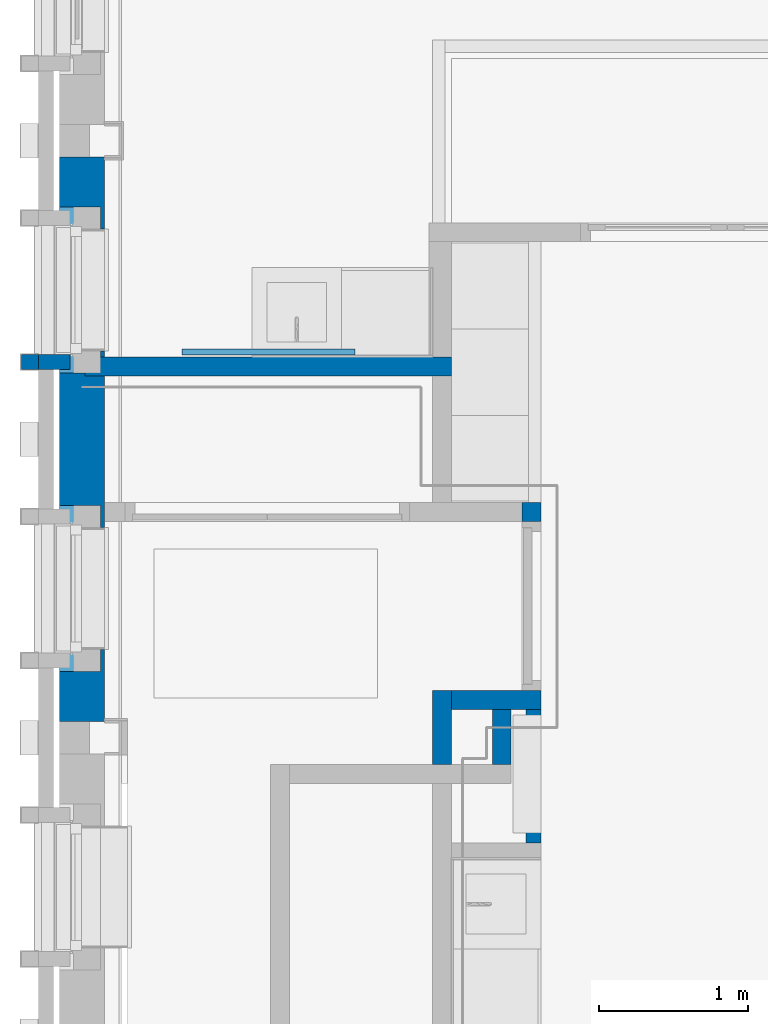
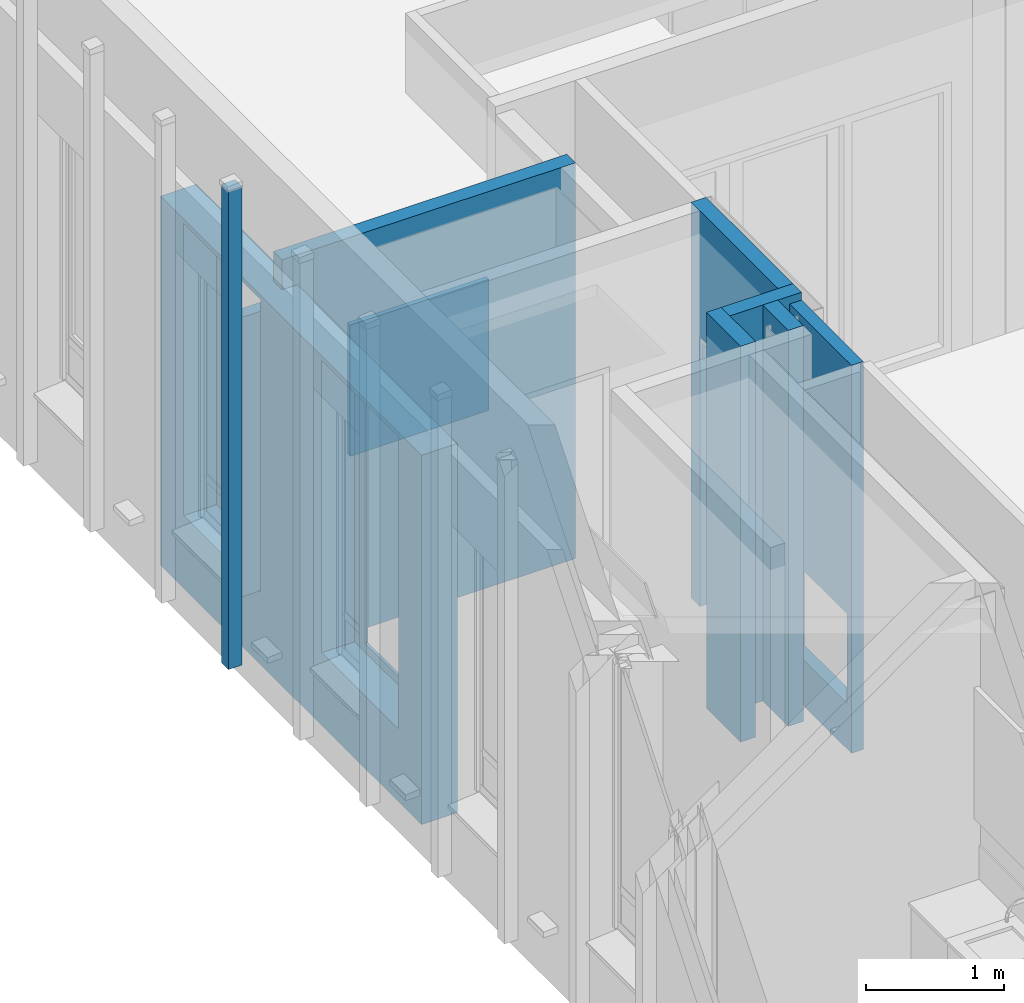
# One storey, part 50 of 118: 10 walls, 14 openings.
"""IFC2X3 building model written with IfcOpenShell, lengths in millimetres."""

from ifc_helpers import new_model, entity, si_unit, converted_unit, derived_unit, direction, frame, frame_2d, origin, place, context, subcontext, project, spatial, rectangle, extrude, faceted_brep, material, layer, layer_set, layer_usage, type_object, element, save


model = new_model("IFC2X3")

# Units and contexts
model_context = context("Model", 3, precision=0.01, world=origin(), true_north=direction((6.123031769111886e-17, 1.0)))
plan_context = context("Plan", 3, precision=0.01, world=origin(), true_north=direction((6.123031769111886e-17, 1.0)))
body_context = subcontext(model_context, "Body", "Model", "MODEL_VIEW")
ifc_project = project(units=[si_unit("LENGTHUNIT", "METRE", prefix="MILLI"), si_unit("AREAUNIT", "SQUARE_METRE"), si_unit("VOLUMEUNIT", "CUBIC_METRE"), converted_unit("PLANEANGLEUNIT", "DEGREE", entity("IfcRatioMeasure", 0.017453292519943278), si_unit("PLANEANGLEUNIT", "RADIAN"), dimensions=[0, 0, 0, 0, 0, 0, 0]), si_unit("MASSUNIT", "GRAM", prefix="KILO"), derived_unit("MASSDENSITYUNIT", [(si_unit("MASSUNIT", "GRAM", prefix="KILO"), 1), (si_unit("LENGTHUNIT", "METRE"), -3)]), derived_unit("IONCONCENTRATIONUNIT", [(si_unit("MASSUNIT", "GRAM", prefix="KILO"), 1), (si_unit("LENGTHUNIT", "METRE"), -3)]), derived_unit("MOMENTOFINERTIAUNIT", [(si_unit("LENGTHUNIT", "METRE"), 4)]), si_unit("TIMEUNIT", "SECOND"), si_unit("FREQUENCYUNIT", "HERTZ"), si_unit("THERMODYNAMICTEMPERATUREUNIT", "DEGREE_CELSIUS"), derived_unit("THERMALTRANSMITTANCEUNIT", [(si_unit("MASSUNIT", "GRAM", prefix="KILO"), 1), (si_unit("THERMODYNAMICTEMPERATUREUNIT", "KELVIN"), -1), (si_unit("TIMEUNIT", "SECOND"), -3)]), derived_unit("THERMALCONDUCTANCEUNIT", [(si_unit("MASSUNIT", "GRAM", prefix="KILO"), 1), (si_unit("THERMODYNAMICTEMPERATUREUNIT", "KELVIN"), -1), (si_unit("TIMEUNIT", "SECOND"), -3), (si_unit("LENGTHUNIT", "METRE"), 1)]), derived_unit("VOLUMETRICFLOWRATEUNIT", [(si_unit("LENGTHUNIT", "METRE"), 3), (si_unit("TIMEUNIT", "SECOND"), -1)]), derived_unit("MASSFLOWRATEUNIT", [(si_unit("MASSUNIT", "GRAM", prefix="KILO"), 1), (si_unit("TIMEUNIT", "SECOND"), -1)]), derived_unit("ROTATIONALFREQUENCYUNIT", [(si_unit("TIMEUNIT", "SECOND"), -1)]), si_unit("ELECTRICCURRENTUNIT", "AMPERE"), si_unit("ELECTRICVOLTAGEUNIT", "VOLT"), si_unit("POWERUNIT", "WATT"), si_unit("FORCEUNIT", "NEWTON", prefix="KILO"), si_unit("ILLUMINANCEUNIT", "LUX"), si_unit("LUMINOUSFLUXUNIT", "LUMEN"), si_unit("LUMINOUSINTENSITYUNIT", "CANDELA"), derived_unit("USERDEFINED", [(si_unit("MASSUNIT", "GRAM", prefix="KILO"), -1), (si_unit("LENGTHUNIT", "METRE"), -2), (si_unit("TIMEUNIT", "SECOND"), 3), (si_unit("LUMINOUSFLUXUNIT", "LUMEN"), 1)]), derived_unit("USERDEFINED", [(si_unit("MASSUNIT", "GRAM", prefix="KILO"), 1), (si_unit("TIMEUNIT", "SECOND"), -3), (si_unit("LENGTHUNIT", "METRE"), 3), (si_unit("ELECTRICCURRENTUNIT", "AMPERE"), -2)]), derived_unit("SOUNDPOWERUNIT", [(si_unit("MASSUNIT", "GRAM", prefix="KILO"), 1), (si_unit("TIMEUNIT", "SECOND"), -3), (si_unit("LENGTHUNIT", "METRE"), 2)]), derived_unit("SOUNDPRESSUREUNIT", [(si_unit("MASSUNIT", "GRAM", prefix="KILO"), 1), (si_unit("LENGTHUNIT", "METRE"), -1), (si_unit("TIMEUNIT", "SECOND"), -2)]), derived_unit("LINEARVELOCITYUNIT", [(si_unit("LENGTHUNIT", "METRE"), 1), (si_unit("TIMEUNIT", "SECOND"), -1)]), si_unit("PRESSUREUNIT", "PASCAL"), derived_unit("USERDEFINED", [(si_unit("MASSUNIT", "GRAM", prefix="KILO"), 1), (si_unit("LENGTHUNIT", "METRE"), -2), (si_unit("TIMEUNIT", "SECOND"), -2)]), derived_unit("LINEARFORCEUNIT", [(si_unit("MASSUNIT", "GRAM", prefix="KILO"), 1), (si_unit("TIMEUNIT", "SECOND"), -2)]), derived_unit("PLANARFORCEUNIT", [(si_unit("MASSUNIT", "GRAM", prefix="KILO"), 1), (si_unit("LENGTHUNIT", "METRE"), -1), (si_unit("TIMEUNIT", "SECOND"), -2)]), derived_unit("SPECIFICHEATCAPACITYUNIT", [(si_unit("THERMODYNAMICTEMPERATUREUNIT", "KELVIN"), -1), (si_unit("LENGTHUNIT", "METRE"), 2), (si_unit("TIMEUNIT", "SECOND"), -2)]), derived_unit("HEATINGVALUEUNIT", [(si_unit("LENGTHUNIT", "METRE"), 2), (si_unit("TIMEUNIT", "SECOND"), -2)]), derived_unit("VAPORPERMEABILITYUNIT", [(si_unit("LENGTHUNIT", "METRE"), -1), (si_unit("TIMEUNIT", "SECOND"), 1)]), derived_unit("DYNAMICVISCOSITYUNIT", [(si_unit("MASSUNIT", "GRAM", prefix="KILO"), 1), (si_unit("TIMEUNIT", "SECOND"), -1), (si_unit("LENGTHUNIT", "METRE"), -1)]), derived_unit("THERMALEXPANSIONCOEFFICIENTUNIT", [(si_unit("THERMODYNAMICTEMPERATUREUNIT", "KELVIN"), -1)]), derived_unit("MODULUSOFELASTICITYUNIT", [(si_unit("MASSUNIT", "GRAM", prefix="KILO"), 1), (si_unit("LENGTHUNIT", "METRE"), -1), (si_unit("TIMEUNIT", "SECOND"), -2)]), derived_unit("ISOTHERMALMOISTURECAPACITYUNIT", [(si_unit("LENGTHUNIT", "METRE"), 3), (si_unit("MASSUNIT", "GRAM", prefix="KILO"), -1)]), derived_unit("MOISTUREDIFFUSIVITYUNIT", [(si_unit("TIMEUNIT", "SECOND"), -1), (si_unit("LENGTHUNIT", "METRE"), 2)])], contexts=[model_context, plan_context])

# Site, building, storey
site_placement = place(None, origin())
site = spatial("IfcSite", under=ifc_project, at=site_placement, Name="Locatie", CompositionType="ELEMENT")
building_placement = place(site_placement, origin())
building = spatial("IfcBuilding", under=site, at=building_placement, Name="Bouwwerk", CompositionType="ELEMENT")
storey_placement = place(building_placement, frame((0.0, 0.0, 7800.0)))
storey = spatial("IfcBuildingStorey", under=building, at=storey_placement, Name="02 tweede verdieping", CompositionType="ELEMENT", Elevation=7800.000000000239)

# Wall, openings
ifc_material_1 = material(Name="n7_isolatie_glaswol")
ifc_layer_1 = layer(ifc_material_1, 30.0)
ifc_layer_2 = layer(ifc_material_1, 245.0)
ifc_material_2 = material(Name="i4_multiplex")
ifc_layer_3 = layer(ifc_material_2, 12.0)
ifc_material_3 = material(Name="f7_gipsvezel")
ifc_layer_4 = layer(ifc_material_3, 13.000000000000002)
ifc_layer_set_1 = layer_set([ifc_layer_1, ifc_layer_2, ifc_layer_3, ifc_layer_4], Name="Basic Wall:NLRS_22_WA_HSB bispouw 30-245-12-13 glaswol_gen_ISR")
ifc_layer_usage_1 = layer_usage(ifc_layer_set_1, "AXIS2", "NEGATIVE", 150.0)
wall_type_1 = type_object("IfcWallType", Name="Basic Wall:NLRS_22_WA_HSB bispouw 30-245-12-13 glaswol_gen_ISR", PredefinedType="STANDARD", material=ifc_layer_set_1)
wall_1_placement = place(storey_placement, frame((9850.0, 23310.0, -30.0), z_axis=(0.0, 0.0, 1.0), x_axis=(0.0, 1.0, 0.0)))
wall_1 = element("IfcWallStandardCase", 1, at=wall_1_placement, inside=storey, type_object=wall_type_1, material=ifc_layer_usage_1, Name="Basic Wall:NLRS_22_WA_HSB bispouw 30-245-12-13 glaswol_gen_ISR", ObjectType="Basic Wall:NLRS_22_WA_HSB bispouw 30-245-12-13 glaswol_gen_ISR", context=body_context, shape_type="SweptSolid", body=[
    extrude(rectangle(XDim=3780.000000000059, YDim=300.0000000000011, at=frame_2d((1890.0000000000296, 0.0), x_axis=(-1.0, 0.0))), origin(), (0.0, 0.0, 1.0), 3266.0000000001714),
])
opening_1_placement = place(wall_1_placement, frame((-11666.0, 290.0, 633.0)))
element("IfcOpeningElement", 2, at=opening_1_placement, cuts=wall_1, Name="Basic Wall:NLRS_22_WA_HSB bispouw 30-245-12-13 glaswol_gen_ISR", ObjectType="Opening", context=body_context, shape_type="Brep", body=[
    faceted_brep([(1088.0, -100.0, 2472.0), (1009.0, -100.0, 2472.0), (1009.0, -100.0, 42.0), (103.0, -100.0, 42.0), (103.0, -100.0, 2472.0), (24.0, -100.0, 2472.0), (24.0, -100.0, 0.0), (1088.0, -100.0, 0.0), (24.0, 0.0, 2472.0), (1088.0, 0.0, 2472.0), (1088.0, 0.0, 0.0), (24.0, 0.0, 0.0), (0.0, -415.0, 2594.0), (0.0, -415.0, 11.0), (1112.0, -415.0, 11.0), (1112.0, -415.0, 2594.0), (148.0, -415.0, 2443.0), (964.0, -415.0, 2443.0), (964.0, -415.0, 87.0), (148.0, -415.0, 87.0), (0.0, -140.0, 2594.0), (1112.0, -140.0, 2594.0), (1112.0, -140.0, 11.0), (0.0, -140.0, 11.0), (103.0, -140.0, 42.0), (1009.0, -140.0, 42.0), (1009.0, -140.0, 2508.0), (103.0, -140.0, 2508.0), (1009.0, -100.0, 2508.0), (103.0, -100.0, 2508.0), (148.0, -615.0, 2443.0), (148.0, -615.0, 87.0), (964.0, -615.0, 87.0), (964.0, -615.0, 2443.0)], [[[0, 1, 2, 3, 4, 5, 6, 7]], [[8, 9, 10, 11]], [[5, 8, 11, 6]], [[6, 11, 10, 7]], [[7, 10, 9, 0]], [[8, 5, 4, 1, 0, 9]], [[12, 13, 14, 15], [16, 17, 18, 19]], [[20, 21, 22, 23], [24, 25, 26, 27]], [[12, 20, 23, 13]], [[13, 23, 22, 14]], [[14, 22, 21, 15]], [[15, 21, 20, 12]], [[28, 1, 4, 29]], [[24, 27, 29, 4, 3]], [[3, 2, 25, 24]], [[2, 1, 28, 26, 25]], [[29, 27, 26, 28]], [[30, 31, 32, 33]], [[30, 16, 19, 31]], [[31, 19, 18, 32]], [[32, 18, 17, 33]], [[33, 17, 16, 30]]]),
])
opening_2_placement = place(wall_1_placement, frame((-9666.0, 290.0, 633.0)))
element("IfcOpeningElement", 3, at=opening_2_placement, cuts=wall_1, Name="Basic Wall:NLRS_22_WA_HSB bispouw 30-245-12-13 glaswol_gen_ISR", ObjectType="Opening", context=body_context, shape_type="Brep", body=[
    faceted_brep([(1088.0, -100.0, 2472.0), (1009.0, -100.0, 2472.0), (1009.0, -100.0, 42.0), (103.0, -100.0, 42.0), (103.0, -100.0, 2472.0), (24.0, -100.0, 2472.0), (24.0, -100.0, 0.0), (1088.0, -100.0, 0.0), (24.0, 0.0, 2472.0), (1088.0, 0.0, 2472.0), (1088.0, 0.0, 0.0), (24.0, 0.0, 0.0), (0.0, -415.0, 2594.0), (0.0, -415.0, 11.0), (1112.0, -415.0, 11.0), (1112.0, -415.0, 2594.0), (148.0, -415.0, 2443.0), (964.0, -415.0, 2443.0), (964.0, -415.0, 87.0), (148.0, -415.0, 87.0), (0.0, -140.0, 2594.0), (1112.0, -140.0, 2594.0), (1112.0, -140.0, 11.0), (0.0, -140.0, 11.0), (103.0, -140.0, 42.0), (1009.0, -140.0, 42.0), (1009.0, -140.0, 2508.0), (103.0, -140.0, 2508.0), (1009.0, -100.0, 2508.0), (103.0, -100.0, 2508.0), (148.0, -615.0, 2443.0), (148.0, -615.0, 87.0), (964.0, -615.0, 87.0), (964.0, -615.0, 2443.0)], [[[0, 1, 2, 3, 4, 5, 6, 7]], [[8, 9, 10, 11]], [[5, 8, 11, 6]], [[6, 11, 10, 7]], [[7, 10, 9, 0]], [[8, 5, 4, 1, 0, 9]], [[12, 13, 14, 15], [16, 17, 18, 19]], [[20, 21, 22, 23], [24, 25, 26, 27]], [[12, 20, 23, 13]], [[13, 23, 22, 14]], [[14, 22, 21, 15]], [[15, 21, 20, 12]], [[28, 1, 4, 29]], [[24, 27, 29, 4, 3]], [[3, 2, 25, 24]], [[2, 1, 28, 26, 25]], [[29, 27, 26, 28]], [[30, 31, 32, 33]], [[30, 16, 19, 31]], [[31, 19, 18, 32]], [[32, 18, 17, 33]], [[33, 17, 16, 30]]]),
])
opening_3_placement = place(wall_1_placement, frame((-7666.0, 290.0, 633.0)))
element("IfcOpeningElement", 4, at=opening_3_placement, cuts=wall_1, Name="Basic Wall:NLRS_22_WA_HSB bispouw 30-245-12-13 glaswol_gen_ISR", ObjectType="Opening", context=body_context, shape_type="Brep", body=[
    faceted_brep([(1088.0, -100.0, 2472.0), (1009.0, -100.0, 2472.0), (1009.0, -100.0, 42.0), (103.0, -100.0, 42.0), (103.0, -100.0, 2472.0), (24.0, -100.0, 2472.0), (24.0, -100.0, 0.0), (1088.0, -100.0, 0.0), (24.0, 0.0, 2472.0), (1088.0, 0.0, 2472.0), (1088.0, 0.0, 0.0), (24.0, 0.0, 0.0), (0.0, -415.0, 2594.0), (0.0, -415.0, 11.0), (1112.0, -415.0, 11.0), (1112.0, -415.0, 2594.0), (148.0, -415.0, 2443.0), (964.0, -415.0, 2443.0), (964.0, -415.0, 87.0), (148.0, -415.0, 87.0), (0.0, -140.0, 2594.0), (1112.0, -140.0, 2594.0), (1112.0, -140.0, 11.0), (0.0, -140.0, 11.0), (103.0, -140.0, 42.0), (1009.0, -140.0, 42.0), (1009.0, -140.0, 2508.0), (103.0, -140.0, 2508.0), (1009.0, -100.0, 2508.0), (103.0, -100.0, 2508.0), (148.0, -615.0, 2443.0), (148.0, -615.0, 87.0), (964.0, -615.0, 87.0), (964.0, -615.0, 2443.0)], [[[0, 1, 2, 3, 4, 5, 6, 7]], [[8, 9, 10, 11]], [[5, 8, 11, 6]], [[6, 11, 10, 7]], [[7, 10, 9, 0]], [[8, 5, 4, 1, 0, 9]], [[12, 13, 14, 15], [16, 17, 18, 19]], [[20, 21, 22, 23], [24, 25, 26, 27]], [[12, 20, 23, 13]], [[13, 23, 22, 14]], [[14, 22, 21, 15]], [[15, 21, 20, 12]], [[28, 1, 4, 29]], [[24, 27, 29, 4, 3]], [[3, 2, 25, 24]], [[2, 1, 28, 26, 25]], [[29, 27, 26, 28]], [[30, 31, 32, 33]], [[30, 16, 19, 31]], [[31, 19, 18, 32]], [[32, 18, 17, 33]], [[33, 17, 16, 30]]]),
])
opening_4_placement = place(wall_1_placement, frame((-5666.0, 290.0, 633.0)))
element("IfcOpeningElement", 5, at=opening_4_placement, cuts=wall_1, Name="Basic Wall:NLRS_22_WA_HSB bispouw 30-245-12-13 glaswol_gen_ISR", ObjectType="Opening", context=body_context, shape_type="Brep", body=[
    faceted_brep([(1088.0, -100.0, 2472.0), (1009.0, -100.0, 2472.0), (1009.0, -100.0, 42.0), (103.0, -100.0, 42.0), (103.0, -100.0, 2472.0), (24.0, -100.0, 2472.0), (24.0, -100.0, 0.0), (1088.0, -100.0, 0.0), (24.0, 0.0, 2472.0), (1088.0, 0.0, 2472.0), (1088.0, 0.0, 0.0), (24.0, 0.0, 0.0), (0.0, -415.0, 2594.0), (0.0, -415.0, 11.0), (1112.0, -415.0, 11.0), (1112.0, -415.0, 2594.0), (148.0, -415.0, 2443.0), (964.0, -415.0, 2443.0), (964.0, -415.0, 87.0), (148.0, -415.0, 87.0), (0.0, -140.0, 2594.0), (1112.0, -140.0, 2594.0), (1112.0, -140.0, 11.0), (0.0, -140.0, 11.0), (103.0, -140.0, 42.0), (1009.0, -140.0, 42.0), (1009.0, -140.0, 2508.0), (103.0, -140.0, 2508.0), (1009.0, -100.0, 2508.0), (103.0, -100.0, 2508.0), (148.0, -615.0, 2443.0), (148.0, -615.0, 87.0), (964.0, -615.0, 87.0), (964.0, -615.0, 2443.0)], [[[0, 1, 2, 3, 4, 5, 6, 7]], [[8, 9, 10, 11]], [[5, 8, 11, 6]], [[6, 11, 10, 7]], [[7, 10, 9, 0]], [[8, 5, 4, 1, 0, 9]], [[12, 13, 14, 15], [16, 17, 18, 19]], [[20, 21, 22, 23], [24, 25, 26, 27]], [[12, 20, 23, 13]], [[13, 23, 22, 14]], [[14, 22, 21, 15]], [[15, 21, 20, 12]], [[28, 1, 4, 29]], [[24, 27, 29, 4, 3]], [[3, 2, 25, 24]], [[2, 1, 28, 26, 25]], [[29, 27, 26, 28]], [[30, 31, 32, 33]], [[30, 16, 19, 31]], [[31, 19, 18, 32]], [[32, 18, 17, 33]], [[33, 17, 16, 30]]]),
])
opening_5_placement = place(wall_1_placement, frame((-3666.0, 290.0, 633.0)))
element("IfcOpeningElement", 6, at=opening_5_placement, cuts=wall_1, Name="Basic Wall:NLRS_22_WA_HSB bispouw 30-245-12-13 glaswol_gen_ISR", ObjectType="Opening", context=body_context, shape_type="Brep", body=[
    faceted_brep([(24.0, -100.0, 0.0), (24.0, 0.0, 0.0), (1088.0, 0.0, 0.0), (1088.0, -100.0, 0.0), (0.0, -415.0, 11.0), (0.0, -140.0, 11.0), (1112.0, -140.0, 11.0), (1112.0, -415.0, 11.0), (103.0, -100.0, 42.0), (1009.0, -100.0, 42.0), (1009.0, -140.0, 42.0), (103.0, -140.0, 42.0), (1088.0, -100.0, 2472.0), (1009.0, -100.0, 2472.0), (103.0, -100.0, 2472.0), (24.0, -100.0, 2472.0), (24.0, 0.0, 2472.0), (1088.0, 0.0, 2472.0), (0.0, -415.0, 2594.0), (1112.0, -415.0, 2594.0), (148.0, -415.0, 2443.0), (964.0, -415.0, 2443.0), (964.0, -415.0, 87.0), (148.0, -415.0, 87.0), (0.0, -140.0, 2594.0), (1112.0, -140.0, 2594.0), (1009.0, -140.0, 2508.0), (103.0, -140.0, 2508.0), (1009.0, -100.0, 2508.0), (103.0, -100.0, 2508.0), (148.0, -615.0, 2443.0), (148.0, -615.0, 87.0), (964.0, -615.0, 87.0), (964.0, -615.0, 2443.0)], [[[0, 1, 2, 3]], [[4, 5, 6, 7]], [[8, 9, 10, 11]], [[12, 13, 9, 8, 14, 15, 0, 3]], [[16, 17, 2, 1]], [[15, 16, 1, 0]], [[3, 2, 17, 12]], [[16, 15, 14, 13, 12, 17]], [[18, 4, 7, 19], [20, 21, 22, 23]], [[24, 25, 6, 5], [11, 10, 26, 27]], [[18, 24, 5, 4]], [[7, 6, 25, 19]], [[19, 25, 24, 18]], [[28, 13, 14, 29]], [[11, 27, 29, 14, 8]], [[9, 13, 28, 26, 10]], [[29, 27, 26, 28]], [[30, 31, 32, 33]], [[30, 20, 23, 31]], [[31, 23, 22, 32]], [[32, 22, 21, 33]], [[33, 21, 20, 30]]]),
])
opening_6_placement = place(wall_1_placement, frame((-1666.0, 290.0, 633.0)))
element("IfcOpeningElement", 7, at=opening_6_placement, cuts=wall_1, Name="Basic Wall:NLRS_22_WA_HSB bispouw 30-245-12-13 glaswol_gen_ISR", ObjectType="Opening", context=body_context, shape_type="Brep", body=[
    faceted_brep([(24.0, -100.0, 0.0), (24.0, 0.0, 0.0), (1088.0, 0.0, 0.0), (1088.0, -100.0, 0.0), (0.0, -415.0, 11.0), (0.0, -140.0, 11.0), (1112.0, -140.0, 11.0), (1112.0, -415.0, 11.0), (103.0, -100.0, 42.0), (1009.0, -100.0, 42.0), (1009.0, -140.0, 42.0), (103.0, -140.0, 42.0), (1088.0, -100.0, 2472.0), (1009.0, -100.0, 2472.0), (103.0, -100.0, 2472.0), (24.0, -100.0, 2472.0), (24.0, 0.0, 2472.0), (1088.0, 0.0, 2472.0), (0.0, -415.0, 2594.0), (1112.0, -415.0, 2594.0), (148.0, -415.0, 2443.0), (964.0, -415.0, 2443.0), (964.0, -415.0, 87.0), (148.0, -415.0, 87.0), (0.0, -140.0, 2594.0), (1112.0, -140.0, 2594.0), (1009.0, -140.0, 2508.0), (103.0, -140.0, 2508.0), (1009.0, -100.0, 2508.0), (103.0, -100.0, 2508.0), (148.0, -615.0, 2443.0), (148.0, -615.0, 87.0), (964.0, -615.0, 87.0), (964.0, -615.0, 2443.0)], [[[0, 1, 2, 3]], [[4, 5, 6, 7]], [[8, 9, 10, 11]], [[12, 13, 9, 8, 14, 15, 0, 3]], [[16, 17, 2, 1]], [[15, 16, 1, 0]], [[3, 2, 17, 12]], [[16, 15, 14, 13, 12, 17]], [[18, 4, 7, 19], [20, 21, 22, 23]], [[24, 25, 6, 5], [11, 10, 26, 27]], [[18, 24, 5, 4]], [[7, 6, 25, 19]], [[19, 25, 24, 18]], [[28, 13, 14, 29]], [[11, 27, 29, 14, 8]], [[9, 13, 28, 26, 10]], [[29, 27, 26, 28]], [[30, 31, 32, 33]], [[30, 20, 23, 31]], [[31, 23, 22, 32]], [[32, 22, 21, 33]], [[33, 21, 20, 30]]]),
])
opening_7_placement = place(wall_1_placement, frame((4334.0, 290.0, 633.0)))
element("IfcOpeningElement", 8, at=opening_7_placement, cuts=wall_1, Name="Basic Wall:NLRS_22_WA_HSB bispouw 30-245-12-13 glaswol_gen_ISR", ObjectType="Opening", context=body_context, shape_type="Brep", body=[
    faceted_brep([(1088.0, -100.0, 2472.0), (1009.0, -100.0, 2472.0), (1009.0, -100.0, 42.0), (103.0, -100.0, 42.0), (103.0, -100.0, 2472.0), (24.0, -100.0, 2472.0), (24.0, -100.0, 0.0), (1088.0, -100.0, 0.0), (24.0, 0.0, 2472.0), (1088.0, 0.0, 2472.0), (1088.0, 0.0, 0.0), (24.0, 0.0, 0.0), (0.0, -415.0, 2594.0), (0.0, -415.0, 11.0), (1112.0, -415.0, 11.0), (1112.0, -415.0, 2594.0), (148.0, -415.0, 2443.0), (964.0, -415.0, 2443.0), (964.0, -415.0, 87.0), (148.0, -415.0, 87.0), (0.0, -140.0, 2594.0), (1112.0, -140.0, 2594.0), (1112.0, -140.0, 11.0), (0.0, -140.0, 11.0), (103.0, -140.0, 42.0), (1009.0, -140.0, 42.0), (1009.0, -140.0, 2508.0), (103.0, -140.0, 2508.0), (1009.0, -100.0, 2508.0), (103.0, -100.0, 2508.0), (148.0, -615.0, 2443.0), (148.0, -615.0, 87.0), (964.0, -615.0, 87.0), (964.0, -615.0, 2443.0)], [[[0, 1, 2, 3, 4, 5, 6, 7]], [[8, 9, 10, 11]], [[5, 8, 11, 6]], [[6, 11, 10, 7]], [[7, 10, 9, 0]], [[8, 5, 4, 1, 0, 9]], [[12, 13, 14, 15], [16, 17, 18, 19]], [[20, 21, 22, 23], [24, 25, 26, 27]], [[12, 20, 23, 13]], [[13, 23, 22, 14]], [[14, 22, 21, 15]], [[15, 21, 20, 12]], [[28, 1, 4, 29]], [[24, 27, 29, 4, 3]], [[3, 2, 25, 24]], [[2, 1, 28, 26, 25]], [[29, 27, 26, 28]], [[30, 31, 32, 33]], [[30, 16, 19, 31]], [[31, 19, 18, 32]], [[32, 18, 17, 33]], [[33, 17, 16, 30]]]),
])
opening_8_placement = place(wall_1_placement, frame((6334.0, 290.0, 633.0)))
element("IfcOpeningElement", 9, at=opening_8_placement, cuts=wall_1, Name="Basic Wall:NLRS_22_WA_HSB bispouw 30-245-12-13 glaswol_gen_ISR", ObjectType="Opening", context=body_context, shape_type="Brep", body=[
    faceted_brep([(1088.0, -100.0, 2472.0), (1009.0, -100.0, 2472.0), (1009.0, -100.0, 42.0), (103.0, -100.0, 42.0), (103.0, -100.0, 2472.0), (24.0, -100.0, 2472.0), (24.0, -100.0, 0.0), (1088.0, -100.0, 0.0), (24.0, 0.0, 2472.0), (1088.0, 0.0, 2472.0), (1088.0, 0.0, 0.0), (24.0, 0.0, 0.0), (0.0, -415.0, 2594.0), (0.0, -415.0, 11.0), (1112.0, -415.0, 11.0), (1112.0, -415.0, 2594.0), (148.0, -415.0, 2443.0), (964.0, -415.0, 2443.0), (964.0, -415.0, 87.0), (148.0, -415.0, 87.0), (0.0, -140.0, 2594.0), (1112.0, -140.0, 2594.0), (1112.0, -140.0, 11.0), (0.0, -140.0, 11.0), (103.0, -140.0, 42.0), (1009.0, -140.0, 42.0), (1009.0, -140.0, 2508.0), (103.0, -140.0, 2508.0), (1009.0, -100.0, 2508.0), (103.0, -100.0, 2508.0), (148.0, -615.0, 2443.0), (148.0, -615.0, 87.0), (964.0, -615.0, 87.0), (964.0, -615.0, 2443.0)], [[[0, 1, 2, 3, 4, 5, 6, 7]], [[8, 9, 10, 11]], [[5, 8, 11, 6]], [[6, 11, 10, 7]], [[7, 10, 9, 0]], [[8, 5, 4, 1, 0, 9]], [[12, 13, 14, 15], [16, 17, 18, 19]], [[20, 21, 22, 23], [24, 25, 26, 27]], [[12, 20, 23, 13]], [[13, 23, 22, 14]], [[14, 22, 21, 15]], [[15, 21, 20, 12]], [[28, 1, 4, 29]], [[24, 27, 29, 4, 3]], [[3, 2, 25, 24]], [[2, 1, 28, 26, 25]], [[29, 27, 26, 28]], [[30, 31, 32, 33]], [[30, 16, 19, 31]], [[31, 19, 18, 32]], [[32, 18, 17, 33]], [[33, 17, 16, 30]]]),
])
opening_9_placement = place(wall_1_placement, frame((8334.0, 290.0, 633.0)))
element("IfcOpeningElement", 10, at=opening_9_placement, cuts=wall_1, Name="Basic Wall:NLRS_22_WA_HSB bispouw 30-245-12-13 glaswol_gen_ISR", ObjectType="Opening", context=body_context, shape_type="Brep", body=[
    faceted_brep([(1088.0, -100.0, 2472.0), (1009.0, -100.0, 2472.0), (1009.0, -100.0, 42.0), (103.0, -100.0, 42.0), (103.0, -100.0, 2472.0), (24.0, -100.0, 2472.0), (24.0, -100.0, 0.0), (1088.0, -100.0, 0.0), (24.0, 0.0, 2472.0), (1088.0, 0.0, 2472.0), (1088.0, 0.0, 0.0), (24.0, 0.0, 0.0), (0.0, -415.0, 2594.0), (0.0, -415.0, 11.0), (1112.0, -415.0, 11.0), (1112.0, -415.0, 2594.0), (148.0, -415.0, 2443.0), (964.0, -415.0, 2443.0), (964.0, -415.0, 87.0), (148.0, -415.0, 87.0), (0.0, -140.0, 2594.0), (1112.0, -140.0, 2594.0), (1112.0, -140.0, 11.0), (0.0, -140.0, 11.0), (103.0, -140.0, 42.0), (1009.0, -140.0, 42.0), (1009.0, -140.0, 2508.0), (103.0, -140.0, 2508.0), (1009.0, -100.0, 2508.0), (103.0, -100.0, 2508.0), (148.0, -615.0, 2443.0), (148.0, -615.0, 87.0), (964.0, -615.0, 87.0), (964.0, -615.0, 2443.0)], [[[0, 1, 2, 3, 4, 5, 6, 7]], [[8, 9, 10, 11]], [[5, 8, 11, 6]], [[6, 11, 10, 7]], [[7, 10, 9, 0]], [[8, 5, 4, 1, 0, 9]], [[12, 13, 14, 15], [16, 17, 18, 19]], [[20, 21, 22, 23], [24, 25, 26, 27]], [[12, 20, 23, 13]], [[13, 23, 22, 14]], [[14, 22, 21, 15]], [[15, 21, 20, 12]], [[28, 1, 4, 29]], [[24, 27, 29, 4, 3]], [[3, 2, 25, 24]], [[2, 1, 28, 26, 25]], [[29, 27, 26, 28]], [[30, 31, 32, 33]], [[30, 16, 19, 31]], [[31, 19, 18, 32]], [[32, 18, 17, 33]], [[33, 17, 16, 30]]]),
])
opening_10_placement = place(wall_1_placement, frame((334.0, 290.0, 633.0), z_axis=(0.0, 0.0, 1.0), x_axis=(0.0, -1.0, 0.0)))
element("IfcOpeningElement", 11, at=opening_10_placement, cuts=wall_1, Name="Basic Wall:NLRS_22_WA_HSB bispouw 30-245-12-13 glaswol_gen_ISR", ObjectType="Opening", context=body_context, shape_type="Brep", body=[
    faceted_brep([(100.0, 1088.0, 2472.0), (100.0, 1009.0, 2472.0), (100.0, 1009.0, 42.0), (100.0, 103.0, 42.0), (100.0, 103.0, 2472.0), (100.0, 24.0, 2472.0), (100.0, 24.0, 0.0), (100.0, 1088.0, 0.0), (0.0, 24.0, 2472.0), (0.0, 1088.0, 2472.0), (0.0, 1088.0, 0.0), (0.0, 24.0, 0.0), (415.0, 0.0, 2594.0), (415.0, 0.0, 11.0), (415.0, 1112.0, 11.0), (415.0, 1112.0, 2594.0), (415.0, 148.0, 2443.0), (415.0, 964.0, 2443.0), (415.0, 964.0, 87.0), (415.0, 148.0, 87.0), (140.0, 0.0, 2594.0), (140.0, 1112.0, 2594.0), (140.0, 1112.0, 11.0), (140.0, 0.0, 11.0), (140.0, 103.0, 42.0), (140.0, 1009.0, 42.0), (140.0, 1009.0, 2508.0), (140.0, 103.0, 2508.0), (100.0, 1009.0, 2508.0), (100.0, 103.0, 2508.0), (615.0, 148.0, 2443.0), (615.0, 148.0, 87.0), (615.0, 964.0, 87.0), (615.0, 964.0, 2443.0)], [[[0, 1, 2, 3, 4, 5, 6, 7]], [[8, 9, 10, 11]], [[5, 8, 11, 6]], [[6, 11, 10, 7]], [[7, 10, 9, 0]], [[8, 5, 4, 1, 0, 9]], [[12, 13, 14, 15], [16, 17, 18, 19]], [[20, 21, 22, 23], [24, 25, 26, 27]], [[12, 20, 23, 13]], [[13, 23, 22, 14]], [[14, 22, 21, 15]], [[15, 21, 20, 12]], [[28, 1, 4, 29]], [[24, 27, 29, 4, 3]], [[3, 2, 25, 24]], [[2, 1, 28, 26, 25]], [[29, 27, 26, 28]], [[30, 31, 32, 33]], [[30, 16, 19, 31]], [[31, 19, 18, 32]], [[32, 18, 17, 33]], [[33, 17, 16, 30]]]),
])
opening_11_placement = place(wall_1_placement, frame((2334.0, 290.0, 633.0), z_axis=(0.0, 0.0, 1.0), x_axis=(0.0, -1.0, 0.0)))
element("IfcOpeningElement", 12, at=opening_11_placement, cuts=wall_1, Name="Basic Wall:NLRS_22_WA_HSB bispouw 30-245-12-13 glaswol_gen_ISR", ObjectType="Opening", context=body_context, shape_type="Brep", body=[
    faceted_brep([(100.0, 1088.0, 2472.0), (100.0, 1009.0, 2472.0), (100.0, 1009.0, 42.0), (100.0, 103.0, 42.0), (100.0, 103.0, 2472.0), (100.0, 24.0, 2472.0), (100.0, 24.0, 0.0), (100.0, 1088.0, 0.0), (0.0, 24.0, 2472.0), (0.0, 1088.0, 2472.0), (0.0, 1088.0, 0.0), (0.0, 24.0, 0.0), (415.0, 0.0, 2594.0), (415.0, 0.0, 11.0), (415.0, 1112.0, 11.0), (415.0, 1112.0, 2594.0), (415.0, 148.0, 2443.0), (415.0, 964.0, 2443.0), (415.0, 964.0, 87.0), (415.0, 148.0, 87.0), (140.0, 0.0, 2594.0), (140.0, 1112.0, 2594.0), (140.0, 1112.0, 11.0), (140.0, 0.0, 11.0), (140.0, 103.0, 42.0), (140.0, 1009.0, 42.0), (140.0, 1009.0, 2508.0), (140.0, 103.0, 2508.0), (100.0, 1009.0, 2508.0), (100.0, 103.0, 2508.0), (615.0, 148.0, 2443.0), (615.0, 148.0, 87.0), (615.0, 964.0, 87.0), (615.0, 964.0, 2443.0)], [[[0, 1, 2, 3, 4, 5, 6, 7]], [[8, 9, 10, 11]], [[5, 8, 11, 6]], [[6, 11, 10, 7]], [[7, 10, 9, 0]], [[8, 5, 4, 1, 0, 9]], [[12, 13, 14, 15], [16, 17, 18, 19]], [[20, 21, 22, 23], [24, 25, 26, 27]], [[12, 20, 23, 13]], [[13, 23, 22, 14]], [[14, 22, 21, 15]], [[15, 21, 20, 12]], [[28, 1, 4, 29]], [[24, 27, 29, 4, 3]], [[3, 2, 25, 24]], [[2, 1, 28, 26, 25]], [[29, 27, 26, 28]], [[30, 31, 32, 33]], [[30, 16, 19, 31]], [[31, 19, 18, 32]], [[32, 18, 17, 33]], [[33, 17, 16, 30]]]),
])

# Walls
ifc_material_4 = material(Name="g2_metselwerk_geel licht")
ifc_layer_5 = layer(ifc_material_4, 100.0)
ifc_layer_set_2 = layer_set([ifc_layer_5], Name="Basic Wall:21_WA_metselwerk_licht_100_gen_bdg")
ifc_layer_usage_2 = layer_usage(ifc_layer_set_2, "AXIS2", "POSITIVE", -50.0)
wall_type_2 = type_object("IfcWallType", Name="Basic Wall:21_WA_metselwerk_licht_100_gen_bdg", PredefinedType="STANDARD", material=ifc_layer_set_2)
wall_2_placement = place(storey_placement, frame((9770.0, 25718.0, 603.0), z_axis=(0.0, 0.0, 1.0), x_axis=(-1.0, 0.0, 0.0)))
element("IfcWallStandardCase", 13, at=wall_2_placement, inside=storey, type_object=wall_type_2, material=ifc_layer_usage_2, Name="Basic Wall:21_WA_metselwerk_licht_100_gen_bdg", ObjectType="Basic Wall:21_WA_metselwerk_licht_100_gen_bdg", context=body_context, shape_type="SweptSolid", body=[
    extrude(rectangle(XDim=210.00000000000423, YDim=100.00000000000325, at=frame_2d((105.00000000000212, 1.0196288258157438e-12), x_axis=(-1.0, 0.0))), origin(), (0.0, 0.0, 1.0), 2471.999999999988),
])
wall_3_placement = place(storey_placement, frame((9560.0, 25718.0, 0.0), z_axis=(0.0, 0.0, 1.0), x_axis=(-1.0, 0.0, 0.0)))
element("IfcWallStandardCase", 14, at=wall_3_placement, inside=storey, type_object=wall_type_2, material=ifc_layer_usage_2, Name="Basic Wall:21_WA_metselwerk_licht_100_gen_bdg", ObjectType="Basic Wall:21_WA_metselwerk_licht_100_gen_bdg", context=body_context, shape_type="SweptSolid", body=[
    extrude(rectangle(XDim=114.99999999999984, YDim=100.00000000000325, at=frame_2d((57.49999999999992, 1.2434497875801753e-12), x_axis=(-1.0, 0.0))), origin(), (0.0, 0.0, 1.0), 4231.99999999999),
])
ifc_layer_6 = layer(ifc_material_3, 12.5)
ifc_material_5 = material(Name="f7_gips")
ifc_layer_7 = layer(ifc_material_5, 12.5)
ifc_layer_8 = layer(ifc_material_1, 75.0)
ifc_layer_9 = layer(ifc_material_5, 12.5)
ifc_layer_10 = layer(ifc_material_3, 12.5)
ifc_layer_set_3 = layer_set([ifc_layer_6, ifc_layer_7, ifc_layer_8, ifc_layer_9, ifc_layer_10], Name="Basic Wall: 25-75-25 _gen_bdg")
ifc_layer_usage_3 = layer_usage(ifc_layer_set_3, "AXIS2", "NEGATIVE", 62.50000000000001)
wall_type_3 = type_object("IfcWallType", Name="Basic Wall: 25-75-25 _gen_bdg", PredefinedType="STANDARD", material=ifc_layer_set_3)
wall_4_placement = place(storey_placement, frame((12325.0, 25687.499999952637, 0.0), z_axis=(0.0, 0.0, 1.0), x_axis=(-1.0, 0.0, 0.0)))
element("IfcWallStandardCase", 15, at=wall_4_placement, inside=storey, type_object=wall_type_3, material=ifc_layer_usage_3, Name="Basic Wall: 25-75-25 _gen_bdg", ObjectType="Basic Wall: 25-75-25 _gen_bdg", context=body_context, shape_type="SweptSolid", body=[
    extrude(rectangle(XDim=2455.0000000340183, YDim=124.99999999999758, at=frame_2d((1227.5000000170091, 3.694822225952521e-13), x_axis=(-1.0, 0.0))), origin(), (0.0, 0.0, 1.0), 3500.0000000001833),
])

# Wall, opening
wall_5_placement = place(storey_placement, frame((12325.0, 23453.499999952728, 0.0)))
wall_5 = element("IfcWallStandardCase", 16, at=wall_5_placement, inside=storey, type_object=wall_type_3, material=ifc_layer_usage_3, Name="Basic Wall: 25-75-25 _gen_bdg", ObjectType="Basic Wall: 25-75-25 _gen_bdg", context=body_context, shape_type="SweptSolid", body=[
    extrude(rectangle(XDim=600.0000001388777, YDim=124.99999999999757, at=frame_2d((300.00000006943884, -2.6645352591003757e-13), x_axis=(-1.0, 0.0))), origin(), (0.0, 0.0, 1.0), 3500.0000000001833),
])
opening_12_placement = place(wall_5_placement, origin())
element("IfcOpeningElement", 17, at=opening_12_placement, cuts=wall_5, Name="Basic Wall: 25-75-25 _gen_bdg", ObjectType="Opening", context=body_context, shape_type="SweptSolid", body=[
    extrude(rectangle(XDim=2387.000000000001, YDim=124.99999999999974, at=frame_2d((-1.0835776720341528e-12, -1.1368683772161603e-12), x_axis=(0.0, 1.0))), frame((537.5000001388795, 62.50000000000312, 1193.4999999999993), z_axis=(0.0, 1.0, 0.0), x_axis=(1.0, 0.0, 0.0)), (0.0, 0.0, 1.0), 1133.9999999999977),
])

wall_6_placement = place(storey_placement, frame((12862.500000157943, 23516.0, 0.0), z_axis=(0.0, 0.0, 1.0), x_axis=(0.0, 1.0, 0.0)))
wall_6 = element("IfcWallStandardCase", 18, at=wall_6_placement, inside=storey, type_object=wall_type_3, material=ifc_layer_usage_3, Name="Basic Wall: 25-75-25 _gen_bdg", ObjectType="Basic Wall: 25-75-25 _gen_bdg", context=body_context, shape_type="SweptSolid", body=[
    extrude(rectangle(XDim=1258.9999999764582, YDim=125.0000000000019, at=frame_2d((629.4999999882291, 0.0), x_axis=(-1.0, 0.0))), origin(), (0.0, 0.0, 1.0), 3500.0000000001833),
])
opening_13_placement = place(wall_6_placement, frame((-23516.0, 12862.500000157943, 0.0), z_axis=(0.0, 0.0, 1.0), x_axis=(0.0, -1.0, 0.0)))
element("IfcOpeningElement", 19, at=opening_13_placement, cuts=wall_6, Name="Basic Wall: 25-75-25 _gen_bdg", ObjectType="Opening", context=body_context, shape_type="SweptSolid", body=[
    extrude(rectangle(XDim=2387.000000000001, YDim=1134.000000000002, at=frame_2d((1.1368683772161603e-12, 0.0), x_axis=(1.0, 0.0))), frame((14449.0, 24083.0, 1193.4999999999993), z_axis=(-1.0, 0.0, 0.0), x_axis=(0.0, 0.0, 1.0)), (0.0, 0.0, 1.0), 3048.0),
])

# Walls
wall_7_placement = place(storey_placement, frame((12662.500000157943, 23020.0, 0.0), z_axis=(0.0, 0.0, 1.0), x_axis=(0.0, 1.0, 0.0)))
element("IfcWallStandardCase", 20, at=wall_7_placement, inside=storey, type_object=wall_type_3, material=ifc_layer_usage_3, Name="Basic Wall: 25-75-25 _gen_bdg", ObjectType="Basic Wall: 25-75-25 _gen_bdg", context=body_context, shape_type="SweptSolid", body=[
    extrude(rectangle(XDim=370.99999990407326, YDim=125.0000000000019, at=frame_2d((185.49999995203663, 0.0), x_axis=(-1.0, 0.0))), origin(), (0.0, 0.0, 1.0), 3500.0000000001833),
])
wall_8_placement = place(storey_placement, frame((12262.50000013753, 23020.0, 0.0), z_axis=(0.0, 0.0, 1.0), x_axis=(0.0, 1.0, 0.0)))
element("IfcWallStandardCase", 21, at=wall_8_placement, inside=storey, type_object=wall_type_3, material=ifc_layer_usage_3, Name="Basic Wall: 25-75-25 _gen_bdg", ObjectType="Basic Wall: 25-75-25 _gen_bdg", context=body_context, shape_type="SweptSolid", body=[
    extrude(rectangle(XDim=495.99999993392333, YDim=125.0000000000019, at=frame_2d((247.99999996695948, 8.704148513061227e-13), x_axis=(-1.0, 0.0))), origin(), (0.0, 0.0, 1.0), 3500.0000000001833),
])

# Wall, opening
ifc_layer_11 = layer(ifc_material_3, 12.5)
ifc_layer_12 = layer(ifc_material_5, 12.5)
ifc_layer_13 = layer(ifc_material_1, 75.0)
ifc_layer_set_4 = layer_set([ifc_layer_11, ifc_layer_12, ifc_layer_13], Name="Basic Wall:22_WA_voorzetwand_ms100 25-75 _gen_bdg")
ifc_layer_usage_4 = layer_usage(ifc_layer_set_4, "AXIS2", "NEGATIVE", 50.0)
wall_type_4 = type_object("IfcWallType", Name="Basic Wall:22_WA_voorzetwand_ms100 25-75 _gen_bdg", PredefinedType="STANDARD", material=ifc_layer_set_4)
wall_9_placement = place(storey_placement, frame((12875.0, 23391.0, 0.0), z_axis=(0.0, 0.0, 1.0), x_axis=(0.0, -1.0, 0.0)))
wall_9 = element("IfcWallStandardCase", 22, at=wall_9_placement, inside=storey, type_object=wall_type_4, material=ifc_layer_usage_4, Name="Basic Wall:22_WA_voorzetwand_ms100 25-75 _gen_bdg", ObjectType="Basic Wall:22_WA_voorzetwand_ms100 25-75 _gen_bdg", context=body_context, shape_type="SweptSolid", body=[
    extrude(rectangle(XDim=894.9999999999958, YDim=99.99999999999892, at=frame_2d((447.4999999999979, 0.0), x_axis=(-1.0, 0.0))), origin(), (0.0, 0.0, 1.0), 3430.000000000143),
])
opening_14_placement = place(wall_9_placement, origin())
element("IfcOpeningElement", 23, at=opening_14_placement, cuts=wall_9, Name="Basic Wall:22_WA_voorzetwand_ms100 25-75 _gen_bdg", ObjectType="Opening", context=body_context, shape_type="SweptSolid", body=[
    extrude(rectangle(XDim=790.0000000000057, YDim=790.0000000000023, at=frame_2d((0.0, 5.400124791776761e-13), x_axis=(0.0, 1.0))), frame((435.0, -135.0, 800.0), z_axis=(0.0, 1.0, 0.0), x_axis=(1.0, 0.0, 0.0)), (0.0, 0.0, 1.0), 184.9999999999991),
])

# Wall
ifc_material_6 = material(Name="f7_binnenwandafwerking")
ifc_layer_14 = layer(ifc_material_6, 1.0)
ifc_material_7 = material(Name="ISR_Luchtspouw")
ifc_layer_15 = layer(ifc_material_7, 39.0)
ifc_layer_set_5 = layer_set([ifc_layer_14, ifc_layer_15], Name="Basic Wall:NLRS_41_WA_akoestische panelen 40_gen_ISR")
ifc_layer_usage_5 = layer_usage(ifc_layer_set_5, "AXIS2", "NEGATIVE", 20.0)
wall_type_5 = type_object("IfcWallType", Name="Basic Wall:NLRS_41_WA_akoestische panelen 40_gen_ISR", PredefinedType="STANDARD", material=ifc_layer_set_5)
wall_10_placement = place(storey_placement, frame((10520.0, 25785.0, 1450.0)))
element("IfcWallStandardCase", 24, at=wall_10_placement, inside=storey, type_object=wall_type_5, material=ifc_layer_usage_5, Name="Basic Wall:NLRS_41_WA_akoestische panelen 40_gen_ISR", ObjectType="Basic Wall:NLRS_41_WA_akoestische panelen 40_gen_ISR", context=body_context, shape_type="SweptSolid", body=[
    extrude(rectangle(XDim=1160.0000000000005, YDim=39.99999999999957, at=frame_2d((580.0000000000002, -8.881784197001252e-13), x_axis=(-1.0, 0.0))), origin(), (0.0, 0.0, 1.0), 1160.0000000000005),
])

save(model, "model.ifc")
